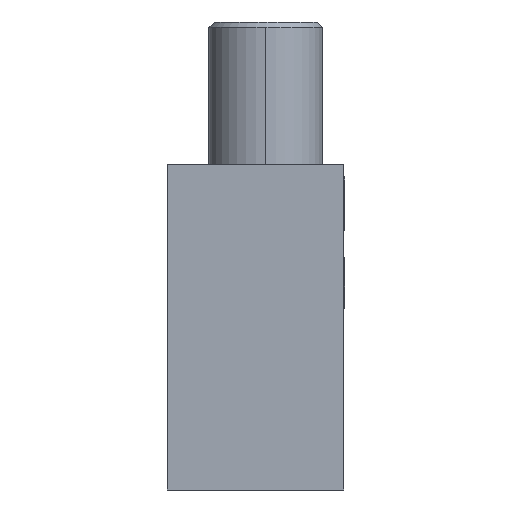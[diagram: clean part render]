
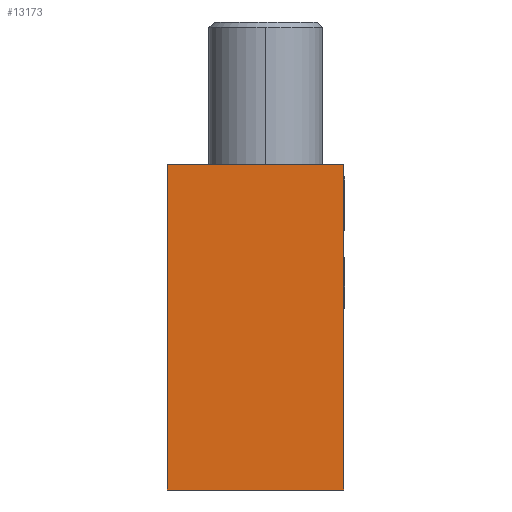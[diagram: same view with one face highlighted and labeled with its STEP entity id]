
A CAD part, left-side view. The second image highlights one B-rep face of the part: STEP entity #13173.
In plain terms, the highlighted planar face has unit normal (-1, 0, 0).
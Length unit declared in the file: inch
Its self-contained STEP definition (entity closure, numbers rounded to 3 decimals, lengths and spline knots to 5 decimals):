
#1841 = ORIENTED_EDGE ( 'NONE', *, *, #32949, .T. ) ;
#2185 = AXIS2_PLACEMENT_3D ( 'NONE', #7181, #21538, #40374 ) ;
#3890 = LINE ( 'NONE', #6956, #36769 ) ;
#6956 = CARTESIAN_POINT ( 'NONE',  ( -1.225, -0.0625, -0.225 ) ) ;
#7181 = CARTESIAN_POINT ( 'NONE',  ( -1.225, 0.0525, -0.1 ) ) ;
#7668 = EDGE_CURVE ( 'NONE', #25195, #26715, #3890, .T. ) ;
#8831 = VECTOR ( 'NONE', #35056, 39.37008 ) ;
#9701 = CARTESIAN_POINT ( 'NONE',  ( -1.225, -0.0625, 0.015 ) ) ;
#9975 = EDGE_LOOP ( 'NONE', ( #45942, #1841, #33430, #28715 ) ) ;
#10996 = EDGE_CURVE ( 'NONE', #26715, #31036, #31546, .T. ) ;
#13173 = ADVANCED_FACE ( 'NONE', ( #32857 ), #43204, .T. ) ;
#16230 = VECTOR ( 'NONE', #29677, 39.37008 ) ;
#17712 = CARTESIAN_POINT ( 'NONE',  ( -1.225, -0.0625, -0.225 ) ) ;
#18035 = DIRECTION ( 'NONE',  ( 0., -1., 0. ) ) ;
#18832 = VERTEX_POINT ( 'NONE', #22880 ) ;
#19762 = CARTESIAN_POINT ( 'NONE',  ( -1.225, -0.0625, -0.1 ) ) ;
#20230 = LINE ( 'NONE', #34601, #8831 ) ;
#21538 = DIRECTION ( 'NONE',  ( -1., 0., 0. ) ) ;
#22880 = CARTESIAN_POINT ( 'NONE',  ( -1.225, 0.0675, 0.015 ) ) ;
#25195 = VERTEX_POINT ( 'NONE', #37767 ) ;
#25901 = LINE ( 'NONE', #40280, #16230 ) ;
#26715 = VERTEX_POINT ( 'NONE', #17712 ) ;
#28191 = EDGE_CURVE ( 'NONE', #25195, #18832, #20230, .T. ) ;
#28715 = ORIENTED_EDGE ( 'NONE', *, *, #7668, .T. ) ;
#29677 = DIRECTION ( 'NONE',  ( 0., 1., 0. ) ) ;
#31036 = VERTEX_POINT ( 'NONE', #9701 ) ;
#31546 = LINE ( 'NONE', #19762, #33415 ) ;
#32857 = FACE_OUTER_BOUND ( 'NONE', #9975, .T. ) ;
#32949 = EDGE_CURVE ( 'NONE', #31036, #18832, #25901, .T. ) ;
#33415 = VECTOR ( 'NONE', #38387, 39.37008 ) ;
#33430 = ORIENTED_EDGE ( 'NONE', *, *, #28191, .F. ) ;
#34601 = CARTESIAN_POINT ( 'NONE',  ( -1.225, 0.0675, -0.225 ) ) ;
#35056 = DIRECTION ( 'NONE',  ( 0., 0., 1. ) ) ;
#36769 = VECTOR ( 'NONE', #18035, 39.37008 ) ;
#37767 = CARTESIAN_POINT ( 'NONE',  ( -1.225, 0.0675, -0.225 ) ) ;
#38387 = DIRECTION ( 'NONE',  ( 0., 0., 1. ) ) ;
#40280 = CARTESIAN_POINT ( 'NONE',  ( -1.225, 0.0525, 0.015 ) ) ;
#40374 = DIRECTION ( 'NONE',  ( 0., 0., -1. ) ) ;
#43204 = PLANE ( 'NONE',  #2185 ) ;
#45942 = ORIENTED_EDGE ( 'NONE', *, *, #10996, .T. ) ;
